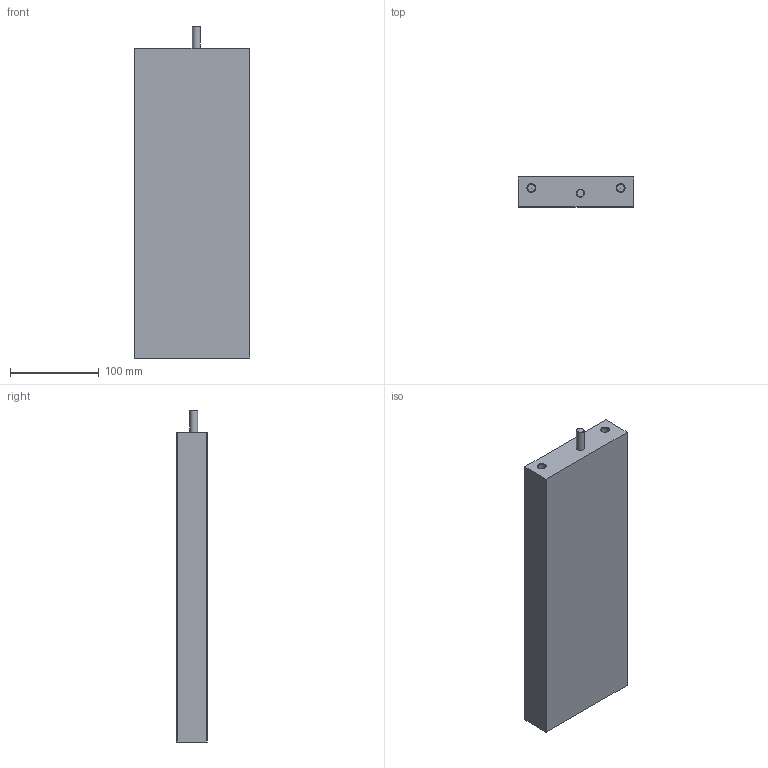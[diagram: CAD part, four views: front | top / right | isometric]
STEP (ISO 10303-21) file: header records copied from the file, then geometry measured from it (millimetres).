
FILE_DESCRIPTION(/* description */ ('LM Motor'),/* implementation_level */ '2;1');
FILE_NAME(/* name */ 'C:\Autodesk Vault\AUTODESK_VAULT\CAD\000-FERTIG Motors\LM-Motoren\LM000\LM130Fw.stp',/* time_stamp */ '2022-05-13T15:39:15+02:00',/* author */ ('FilipT'),/* organization */ ('FERTIG Motors '),/* preprocessor_version */ 'ST-DEVELOPER v18.1',/* originating_system */ 'Autodesk Inventor 2021',/* authorisation */ '');
FILE_SCHEMA (('AUTOMOTIVE_DESIGN { 1 0 10303 214 3 1 1 }'));
Length unit declared in the file: millimetre
Products named in the file (1): xxx
Bounding box: 130 x 34.3 x 375 mm (x, y, z)
Volume: 1558651.5 mm3; surface area: 126347.7 mm2
Topology: 1 solids, 1 shells, 141 faces, 310 edges, 192 vertices
Faces by surface type: plane 49, cylinder 48, cone 44
Full cylindrical faces by diameter (mm): 4.134 x18, 5 x1, 8 x18, 8.566 x2, 9 x1
Entity records: 3795 total; most frequent: DIRECTION 696, CARTESIAN_POINT 624, ORIENTED_EDGE 580, EDGE_CURVE 290, AXIS2_PLACEMENT_3D 264, VERTEX_POINT 192, EDGE_LOOP 182, LINE 168
